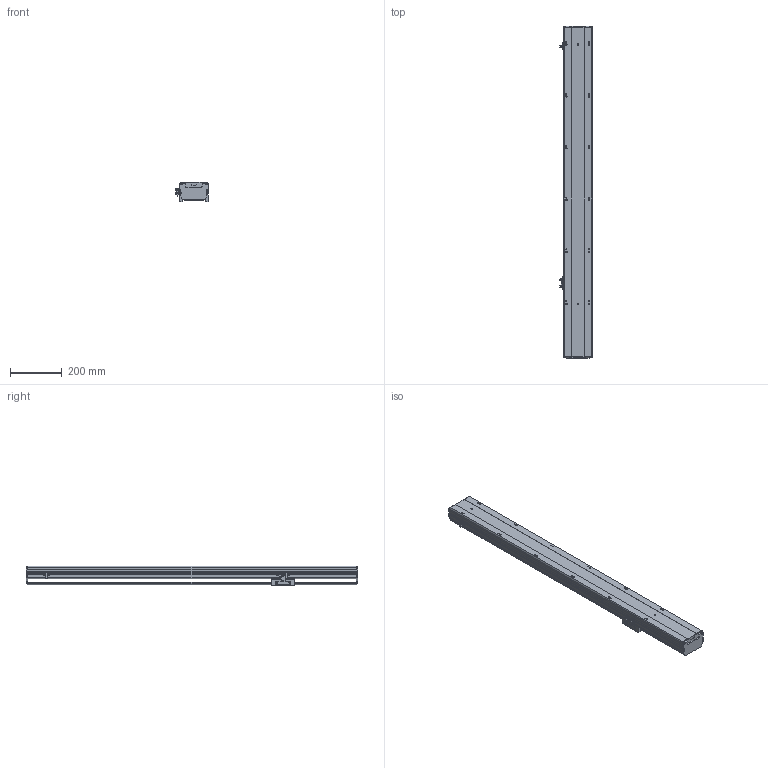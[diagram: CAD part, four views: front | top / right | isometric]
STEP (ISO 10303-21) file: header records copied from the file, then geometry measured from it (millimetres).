
FILE_DESCRIPTION (( 'STEP AP203' ), '1' );
FILE_NAME ('18.STEP', '2020-11-06T08:44:14', ( '' ), ( '' ), 'SwSTEP 2.0', 'SolidWorks 2016', '' );
FILE_SCHEMA (( 'CONFIG_CONTROL_DESIGN' ));
Length unit declared in the file: millimetre
Products named in the file (6): BTH11-M-HZ; BTH11-M-01; BTH11-M-菁釱; BTH11-M-04; 18; BTH11-M-02
Assembly tree (7 placements, depth 2):
  18
    BTH11-M-菁釱
    BTH11-M-01
    BTH11-M-02
    BTH11-M-04  x3
    BTH11-M-HZ
Bounding box: 123.7 x 1280 x 76 mm (x, y, z)
Volume: 4508949.7 mm3; surface area: 914378 mm2
Topology: 9 solids, 9 shells, 936 faces, 2587 edges, 1676 vertices
Faces by surface type: plane 564, cylinder 312, cone 60
Entity records: 23547 total; most frequent: CARTESIAN_POINT 4807, ORIENTED_EDGE 3818, DIRECTION 3729, EDGE_CURVE 1909, VERTEX_POINT 1252, VECTOR 1245, LINE 1245, AXIS2_PLACEMENT_3D 1242
